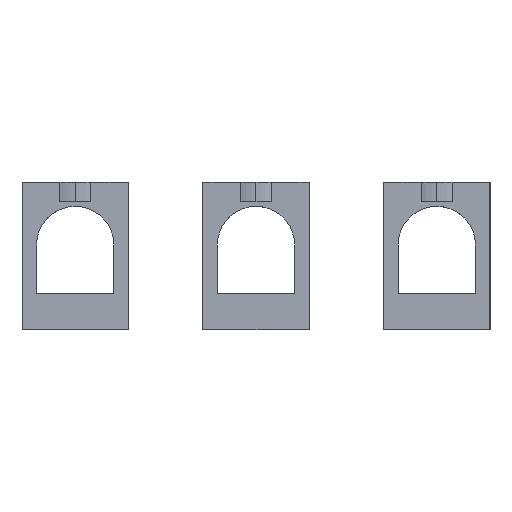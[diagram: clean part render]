
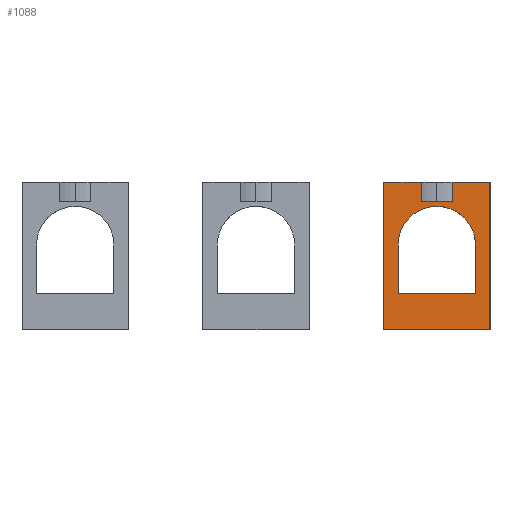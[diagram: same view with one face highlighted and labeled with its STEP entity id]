
A CAD part, front view. The second image highlights one B-rep face of the part: STEP entity #1088.
In plain terms, the highlighted planar face has unit normal (0, -1, 0).
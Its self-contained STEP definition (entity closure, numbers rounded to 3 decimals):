
#15 = LINE ( 'NONE', #2694, #5013 ) ;
#55 = CARTESIAN_POINT ( 'NONE',  ( 29.34, -84.75, 29. ) ) ;
#83 = DIRECTION ( 'NONE',  ( 0., 0., 1. ) ) ;
#105 = VECTOR ( 'NONE', #1308, 1000. ) ;
#383 = AXIS2_PLACEMENT_3D ( 'NONE', #5402, #3070, #4403 ) ;
#423 = VERTEX_POINT ( 'NONE', #1644 ) ;
#486 = LINE ( 'NONE', #1050, #3662 ) ;
#637 = CARTESIAN_POINT ( 'NONE',  ( 34.186, -84.75, 48. ) ) ;
#737 = CARTESIAN_POINT ( 'NONE',  ( 48.34, -84.75, 52. ) ) ;
#916 = EDGE_CURVE ( 'NONE', #2565, #2401, #2376, .T. ) ;
#955 = CARTESIAN_POINT ( 'NONE',  ( 29.34, -84.75, 39. ) ) ;
#1000 = DIRECTION ( 'NONE',  ( 1., 0., 0. ) ) ;
#1022 = DIRECTION ( 'NONE',  ( -1., 0., 0. ) ) ;
#1050 = CARTESIAN_POINT ( 'NONE',  ( 26.34, -84.75, 21.5 ) ) ;
#1088 = ADVANCED_FACE ( 'NONE', ( #2617, #2004 ), #2505, .T. ) ;
#1215 = LINE ( 'NONE', #2040, #4374 ) ;
#1308 = DIRECTION ( 'NONE',  ( 0., 0., 1. ) ) ;
#1346 = CARTESIAN_POINT ( 'NONE',  ( 26.34, -84.75, 52. ) ) ;
#1385 = VERTEX_POINT ( 'NONE', #4782 ) ;
#1403 = CARTESIAN_POINT ( 'NONE',  ( 45.34, -84.75, 39. ) ) ;
#1431 = CARTESIAN_POINT ( 'NONE',  ( 26.34, -84.75, 52. ) ) ;
#1446 = EDGE_CURVE ( 'NONE', #3554, #4139, #3330, .T. ) ;
#1509 = DIRECTION ( 'NONE',  ( -1., 0., 0. ) ) ;
#1521 = VERTEX_POINT ( 'NONE', #4385 ) ;
#1548 = VECTOR ( 'NONE', #4614, 1000. ) ;
#1644 = CARTESIAN_POINT ( 'NONE',  ( 29.34, -84.75, 29. ) ) ;
#1793 = DIRECTION ( 'NONE',  ( 0., 0., 1. ) ) ;
#1907 = CARTESIAN_POINT ( 'NONE',  ( 40.494, -84.75, 48. ) ) ;
#1957 = LINE ( 'NONE', #4529, #105 ) ;
#1974 = LINE ( 'NONE', #737, #4308 ) ;
#2004 = FACE_OUTER_BOUND ( 'NONE', #4346, .T. ) ;
#2040 = CARTESIAN_POINT ( 'NONE',  ( 26.34, -84.75, 52. ) ) ;
#2045 = EDGE_CURVE ( 'NONE', #4139, #423, #3575, .T. ) ;
#2182 = EDGE_LOOP ( 'NONE', ( #2245, #3623, #3503, #5305 ) ) ;
#2245 = ORIENTED_EDGE ( 'NONE', *, *, #2045, .F. ) ;
#2302 = VERTEX_POINT ( 'NONE', #2717 ) ;
#2303 = EDGE_CURVE ( 'NONE', #2565, #3355, #15, .T. ) ;
#2346 = ORIENTED_EDGE ( 'NONE', *, *, #3708, .F. ) ;
#2376 = LINE ( 'NONE', #1907, #5712 ) ;
#2401 = VERTEX_POINT ( 'NONE', #4747 ) ;
#2418 = CARTESIAN_POINT ( 'NONE',  ( 26.34, -84.75, 21.5 ) ) ;
#2505 = PLANE ( 'NONE',  #383 ) ;
#2521 = ORIENTED_EDGE ( 'NONE', *, *, #3868, .T. ) ;
#2558 = DIRECTION ( 'NONE',  ( 0., 0., -1. ) ) ;
#2565 = VERTEX_POINT ( 'NONE', #3574 ) ;
#2617 = FACE_BOUND ( 'NONE', #2182, .T. ) ;
#2642 = EDGE_CURVE ( 'NONE', #3355, #4004, #3374, .T. ) ;
#2694 = CARTESIAN_POINT ( 'NONE',  ( 40.494, -84.75, 48. ) ) ;
#2717 = CARTESIAN_POINT ( 'NONE',  ( 48.34, -84.75, 52. ) ) ;
#2803 = LINE ( 'NONE', #1431, #5915 ) ;
#3070 = DIRECTION ( 'NONE',  ( 0., -1., 0. ) ) ;
#3152 = ORIENTED_EDGE ( 'NONE', *, *, #5245, .T. ) ;
#3206 = ORIENTED_EDGE ( 'NONE', *, *, #5105, .T. ) ;
#3235 = CARTESIAN_POINT ( 'NONE',  ( 34.186, -84.75, 48. ) ) ;
#3240 = EDGE_CURVE ( 'NONE', #2302, #2401, #2803, .T. ) ;
#3273 = LINE ( 'NONE', #55, #4537 ) ;
#3330 = CIRCLE ( 'NONE', #4102, 8. ) ;
#3355 = VERTEX_POINT ( 'NONE', #637 ) ;
#3374 = LINE ( 'NONE', #3235, #4061 ) ;
#3503 = ORIENTED_EDGE ( 'NONE', *, *, #4065, .F. ) ;
#3554 = VERTEX_POINT ( 'NONE', #1403 ) ;
#3574 = CARTESIAN_POINT ( 'NONE',  ( 40.494, -84.75, 48. ) ) ;
#3575 = LINE ( 'NONE', #5344, #3722 ) ;
#3584 = CARTESIAN_POINT ( 'NONE',  ( 34.186, -84.75, 52. ) ) ;
#3623 = ORIENTED_EDGE ( 'NONE', *, *, #1446, .F. ) ;
#3662 = VECTOR ( 'NONE', #1509, 1000. ) ;
#3708 = EDGE_CURVE ( 'NONE', #1521, #4421, #486, .T. ) ;
#3722 = VECTOR ( 'NONE', #2558, 1000. ) ;
#3868 = EDGE_CURVE ( 'NONE', #4004, #1385, #1215, .T. ) ;
#3880 = DIRECTION ( 'NONE',  ( -1., 0., 0. ) ) ;
#3951 = CARTESIAN_POINT ( 'NONE',  ( 37.34, -84.75, 39. ) ) ;
#3956 = DIRECTION ( 'NONE',  ( 0., 0., 1. ) ) ;
#4004 = VERTEX_POINT ( 'NONE', #3584 ) ;
#4061 = VECTOR ( 'NONE', #1793, 1000. ) ;
#4065 = EDGE_CURVE ( 'NONE', #5928, #3554, #1957, .T. ) ;
#4102 = AXIS2_PLACEMENT_3D ( 'NONE', #3951, #5267, #3880 ) ;
#4139 = VERTEX_POINT ( 'NONE', #955 ) ;
#4159 = ORIENTED_EDGE ( 'NONE', *, *, #3240, .T. ) ;
#4308 = VECTOR ( 'NONE', #3956, 1000. ) ;
#4346 = EDGE_LOOP ( 'NONE', ( #2346, #3206, #4159, #4547, #4649, #5150, #2521, #3152 ) ) ;
#4374 = VECTOR ( 'NONE', #5747, 1000. ) ;
#4380 = LINE ( 'NONE', #1346, #1548 ) ;
#4385 = CARTESIAN_POINT ( 'NONE',  ( 48.34, -84.75, 21.5 ) ) ;
#4403 = DIRECTION ( 'NONE',  ( 1., 0., 0. ) ) ;
#4421 = VERTEX_POINT ( 'NONE', #2418 ) ;
#4529 = CARTESIAN_POINT ( 'NONE',  ( 45.34, -84.75, 29. ) ) ;
#4537 = VECTOR ( 'NONE', #1000, 1000. ) ;
#4547 = ORIENTED_EDGE ( 'NONE', *, *, #916, .F. ) ;
#4580 = DIRECTION ( 'NONE',  ( -1., 0., 0. ) ) ;
#4614 = DIRECTION ( 'NONE',  ( 0., 0., -1. ) ) ;
#4649 = ORIENTED_EDGE ( 'NONE', *, *, #2303, .T. ) ;
#4747 = CARTESIAN_POINT ( 'NONE',  ( 40.494, -84.75, 52. ) ) ;
#4782 = CARTESIAN_POINT ( 'NONE',  ( 26.34, -84.75, 52. ) ) ;
#5013 = VECTOR ( 'NONE', #4580, 1000. ) ;
#5105 = EDGE_CURVE ( 'NONE', #1521, #2302, #1974, .T. ) ;
#5150 = ORIENTED_EDGE ( 'NONE', *, *, #2642, .T. ) ;
#5227 = CARTESIAN_POINT ( 'NONE',  ( 45.34, -84.75, 29. ) ) ;
#5245 = EDGE_CURVE ( 'NONE', #1385, #4421, #4380, .T. ) ;
#5267 = DIRECTION ( 'NONE',  ( 0., -1., 0. ) ) ;
#5305 = ORIENTED_EDGE ( 'NONE', *, *, #5845, .F. ) ;
#5344 = CARTESIAN_POINT ( 'NONE',  ( 29.34, -84.75, 29. ) ) ;
#5402 = CARTESIAN_POINT ( 'NONE',  ( 26.34, -84.75, 20.5 ) ) ;
#5712 = VECTOR ( 'NONE', #83, 1000. ) ;
#5747 = DIRECTION ( 'NONE',  ( -1., 0., 0. ) ) ;
#5845 = EDGE_CURVE ( 'NONE', #423, #5928, #3273, .T. ) ;
#5915 = VECTOR ( 'NONE', #1022, 1000. ) ;
#5928 = VERTEX_POINT ( 'NONE', #5227 ) ;
